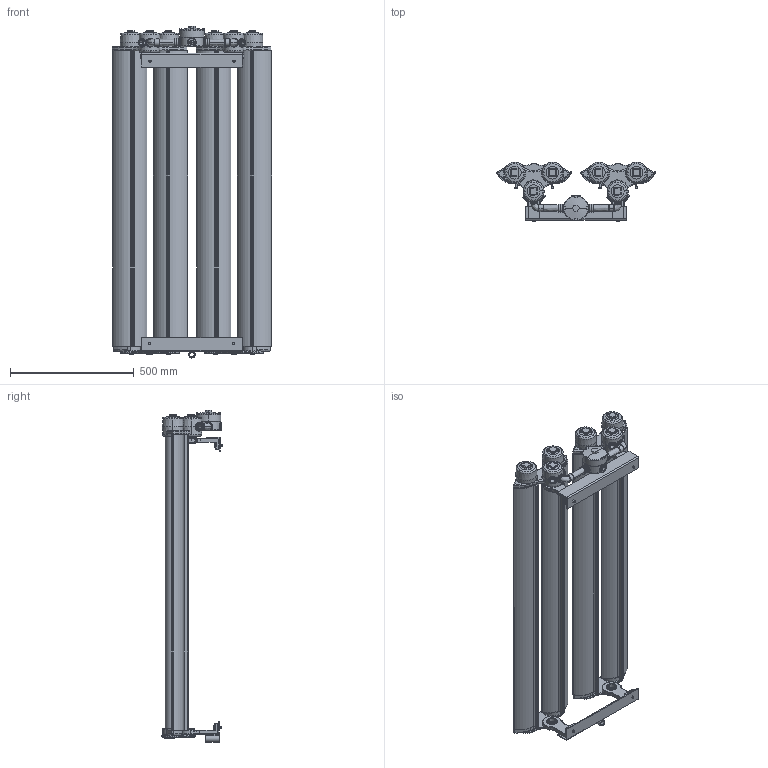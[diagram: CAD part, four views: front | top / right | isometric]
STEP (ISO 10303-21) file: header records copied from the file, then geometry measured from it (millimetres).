
FILE_DESCRIPTION (( 'STEP AP214' ), '1' );
FILE_NAME ('EPL-48-4L-PND.STEP', '2015-03-10T15:31:33', ( '' ), ( '' ), 'SwSTEP 2.0', 'SolidWorks 2015', '' );
FILE_SCHEMA (( 'AUTOMOTIVE_DESIGN' ));
Length unit declared in the file: inch
Products named in the file (18): Glass tube4ft_1; connect 1_1; Update Reflector 4ft_1; quarter screw_1; End Support_1; End Support_1_1_2; End Support_1_1_3; End Support_1_1; EPL-48-4L-PND; Copy of Part13^EPL-48-4l 0 ballast boxes pnd; 4x 16 angle; 4x 16 angle with hole; Hex Bolt_AI_HBOLT 0.3750-16x1x1-N; EPL-48-4l 2 ballast boxes; EPL-48-2 light no ballast_No Dick; Spider End_1; Hinge mt._1; connect 2_1_No Dick
Assembly tree (28 placements, depth 4):
  EPL-48-4L-PND
    EPL-48-2 light no ballast_No Dick  x2
      End Support_1
        End Support_1_1
        End Support_1_1_3
        End Support_1_1_2
      quarter screw_1
      Update Reflector 4ft_1
      connect 1_1
      Glass tube4ft_1
      connect 2_1_No Dick
      Hinge mt._1
      Spider End_1
    EPL-48-4l 2 ballast boxes
    Hex Bolt_AI_HBOLT 0.3750-16x1x1-N  x4
    4x 16 angle with hole
    Copy of Part13^EPL-48-4l 0 ballast boxes pnd
    4x 16 angle
Bounding box: 644.1 x 242.81 x 1342.33 mm (x, y, z)
Volume: 21547343.8 mm3; surface area: 3701519.2 mm2
Topology: 42 solids, 42 shells, 1473 faces, 3363 edges, 1972 vertices
Faces by surface type: cylinder 469, plane 436, torus 306, cone 126, bspline 88, sphere 48
Entity records: 38199 total; most frequent: CARTESIAN_POINT 23990, ORIENTED_EDGE 2828, DIRECTION 2789, EDGE_CURVE 1414, AXIS2_PLACEMENT_3D 1169, VERTEX_POINT 854, EDGE_LOOP 654, FACE_OUTER_BOUND 616
